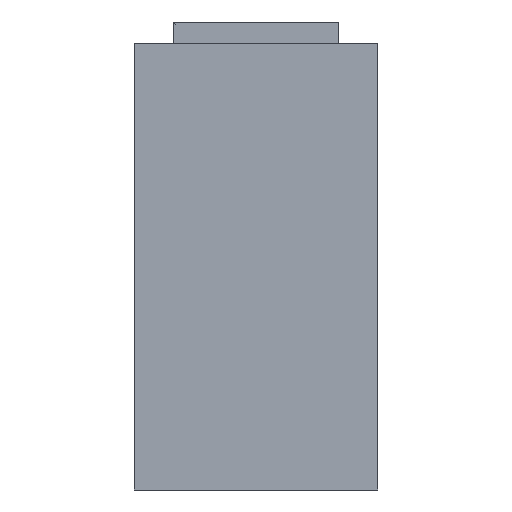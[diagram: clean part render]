
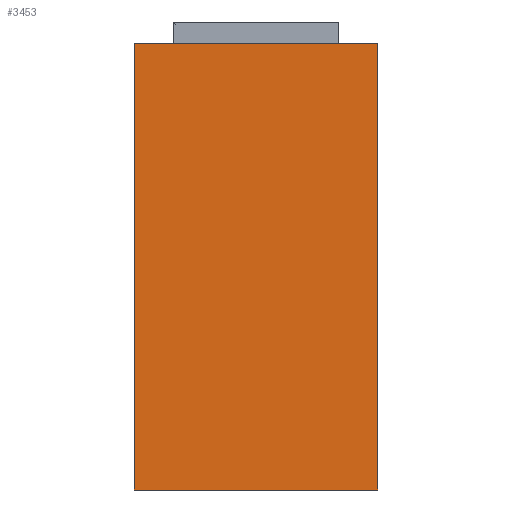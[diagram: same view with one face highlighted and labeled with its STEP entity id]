
A CAD part, left-side view. The second image highlights one B-rep face of the part: STEP entity #3453.
In plain terms, the highlighted planar face has unit normal (-1, 0, 0).
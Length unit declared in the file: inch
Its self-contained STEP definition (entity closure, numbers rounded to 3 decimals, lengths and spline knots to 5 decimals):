
#668=FACE_OUTER_BOUND('',#861,.T.);
#861=EDGE_LOOP('',(#2573,#2574,#2575,#2576));
#1080=LINE('',#4979,#1467);
#1081=LINE('',#4981,#1468);
#1082=LINE('',#4983,#1469);
#1083=LINE('',#4984,#1470);
#1467=VECTOR('',#4147,0.3937);
#1468=VECTOR('',#4148,0.3937);
#1469=VECTOR('',#4149,0.3937);
#1470=VECTOR('',#4150,0.3937);
#1838=VERTEX_POINT('',#4977);
#1839=VERTEX_POINT('',#4978);
#1840=VERTEX_POINT('',#4980);
#1841=VERTEX_POINT('',#4982);
#2120=EDGE_CURVE('',#1838,#1839,#1080,.T.);
#2121=EDGE_CURVE('',#1840,#1839,#1081,.T.);
#2122=EDGE_CURVE('',#1841,#1840,#1082,.T.);
#2123=EDGE_CURVE('',#1841,#1838,#1083,.T.);
#2573=ORIENTED_EDGE('',*,*,#2120,.T.);
#2574=ORIENTED_EDGE('',*,*,#2121,.F.);
#2575=ORIENTED_EDGE('',*,*,#2122,.F.);
#2576=ORIENTED_EDGE('',*,*,#2123,.T.);
#3265=PLANE('',#3836);
#3453=ADVANCED_FACE('',(#668),#3265,.T.);
#3836=AXIS2_PLACEMENT_3D('',#4976,#4145,#4146);
#4145=DIRECTION('center_axis',(-1.,0.,0.));
#4146=DIRECTION('ref_axis',(0.,0.,1.));
#4147=DIRECTION('',(0.,0.,-1.));
#4148=DIRECTION('',(0.,1.,0.));
#4149=DIRECTION('',(0.,0.,-1.));
#4150=DIRECTION('',(0.,1.,0.));
#4976=CARTESIAN_POINT('Origin',(-26.,0.,-90.));
#4977=CARTESIAN_POINT('',(-26.,50.,1.5));
#4978=CARTESIAN_POINT('',(-26.,50.,-90.));
#4979=CARTESIAN_POINT('',(-26.,50.,-67.125));
#4980=CARTESIAN_POINT('',(-26.,0.,-90.));
#4981=CARTESIAN_POINT('',(-26.,0.,-90.));
#4982=CARTESIAN_POINT('',(-26.,0.,1.5));
#4983=CARTESIAN_POINT('',(-26.,0.,1.5));
#4984=CARTESIAN_POINT('',(-26.,0.,1.5));
